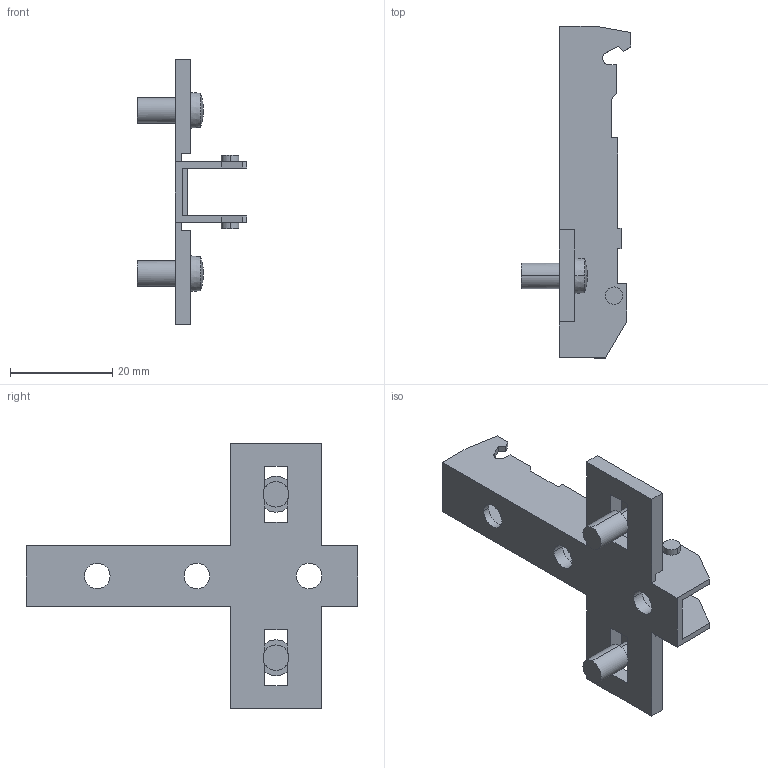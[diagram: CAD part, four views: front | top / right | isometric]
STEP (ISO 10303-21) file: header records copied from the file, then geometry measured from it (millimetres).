
FILE_DESCRIPTION (( 'STEP AP214' ), '1' );
FILE_NAME ('Eco Kreuzmontageplatte LR28_32_Dübel 5mm_kurz_H3,5.step', '2010-11-18T10:07:08', ( 'grass' ), ( '' ), 'SwSTEP 2.0', 'SolidWorks 2010', '' );
FILE_SCHEMA (( 'AUTOMOTIVE_DESIGN' ));
Length unit declared in the file: millimetre
Products named in the file (1): Eco Kreuzmontageplatte LR28_32_Dübel 5mm_kurz_H3,5
Bounding box: 21.5 x 65 x 52 mm (x, y, z)
Volume: 5120.8 mm3; surface area: 6723.3 mm2
Topology: 1 solids, 1 shells, 104 faces, 306 edges, 198 vertices
Faces by surface type: plane 76, cylinder 20, sphere 4, cone 4
Entity records: 3512 total; most frequent: ORIENTED_EDGE 612, CARTESIAN_POINT 609, DIRECTION 584, EDGE_CURVE 306, VECTOR 238, LINE 238, VERTEX_POINT 198, AXIS2_PLACEMENT_3D 173
